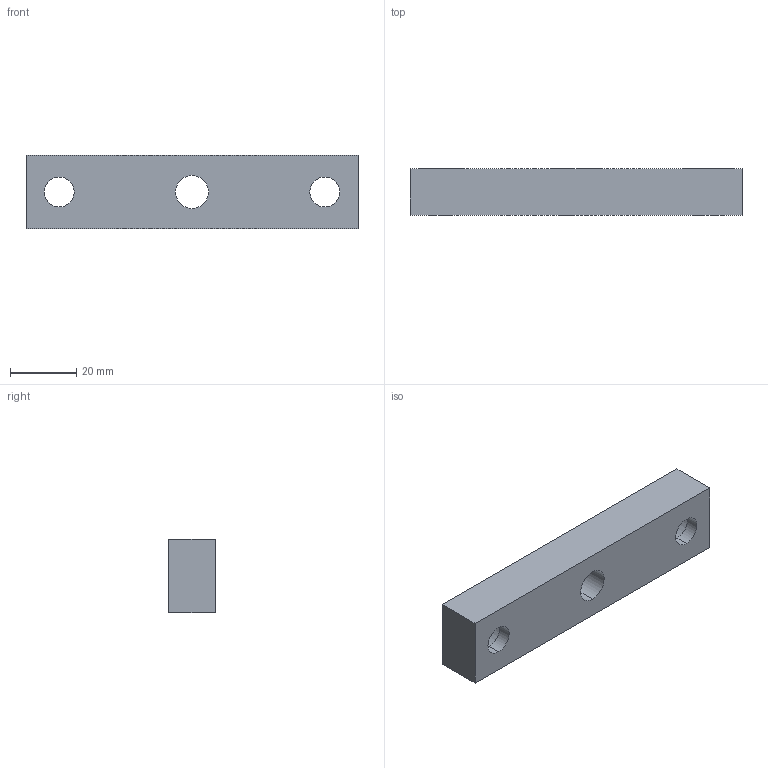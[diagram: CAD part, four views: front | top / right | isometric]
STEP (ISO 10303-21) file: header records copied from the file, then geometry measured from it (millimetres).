
FILE_DESCRIPTION(('CATIA V5 STEP Exchange'),'2;1');
FILE_NAME('C:\Users\Raffaele\Desktop\3D X SITO CF\761\GSB_OILLESS_M31705014100\STEP-2.03\761-014100.stp','2019-07-05T06:13:57+00:00',('none'),('none'),'CATIA Version 5 Release 20 GA (IN-10)','CATIA V5 STEP AP203','none');
FILE_SCHEMA(('CONFIG_CONTROL_DESIGN'));
Length unit declared in the file: millimetre
Products named in the file (1): 761-014100
Bounding box: 100 x 14 x 22 mm (x, y, z)
Volume: 25068.2 mm3; surface area: 9107.2 mm2
Topology: 1 solids, 1 shells, 21 faces, 72 edges, 56 vertices
Faces by surface type: cylinder 12, plane 9
Entity records: 978 total; most frequent: CARTESIAN_POINT 300, ORIENTED_EDGE 144, DIRECTION 102, EDGE_CURVE 72, AXIS2_PLACEMENT_3D 58, VERTEX_POINT 56, CIRCLE 36, EDGE_LOOP 30
